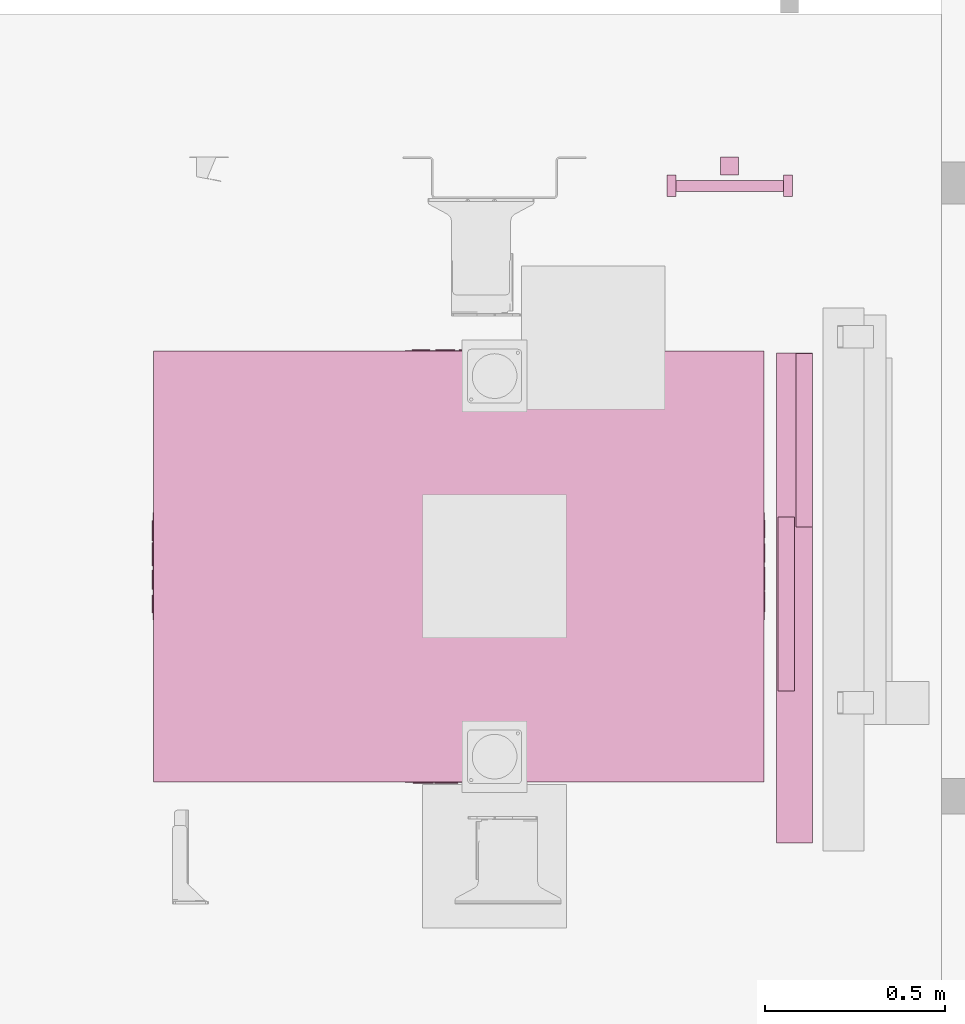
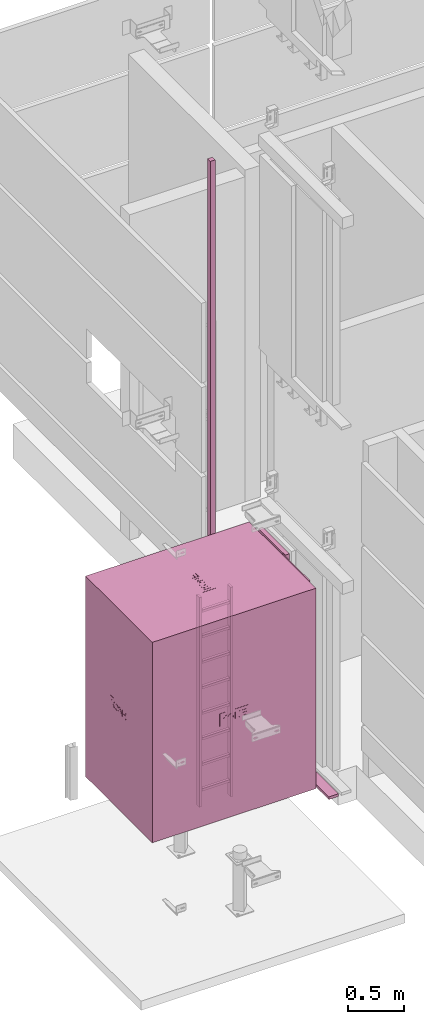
# One storey, part 9 of 15: 4 transport elements.
"""IFC2X3 building model written with IfcOpenShell, lengths in millimetres."""

from ifc_helpers import new_model, entity, si_unit, converted_unit, derived_unit, direction, frame, frame_2d, origin, origin_2d_with_axis, place, context, subcontext, project, spatial, polyline, rectangle, outline, extrude, source, transform, mapped, material, material_list, type_object, type_shapes, element, save


model = new_model("IFC2X3")

# Units and contexts
model_context = context("Model", 3, precision=0.01, world=origin(), true_north=direction((6.12303176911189e-17, 1.0)))
body_context = subcontext(model_context, "Body", "Model", "MODEL_VIEW")
ifc_project = project(units=[si_unit("LENGTHUNIT", "METRE", prefix="MILLI"), si_unit("AREAUNIT", "SQUARE_METRE"), si_unit("VOLUMEUNIT", "CUBIC_METRE"), converted_unit("PLANEANGLEUNIT", "DEGREE", entity("IfcRatioMeasure", 0.0174532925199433), si_unit("PLANEANGLEUNIT", "RADIAN"), dimensions=[0, 0, 0, 0, 0, 0, 0]), si_unit("MASSUNIT", "GRAM", prefix="KILO"), derived_unit("MASSDENSITYUNIT", [(si_unit("MASSUNIT", "GRAM", prefix="KILO"), 1), (si_unit("LENGTHUNIT", "METRE"), -3)]), si_unit("TIMEUNIT", "SECOND"), si_unit("FREQUENCYUNIT", "HERTZ"), si_unit("THERMODYNAMICTEMPERATUREUNIT", "DEGREE_CELSIUS"), derived_unit("THERMALTRANSMITTANCEUNIT", [(si_unit("MASSUNIT", "GRAM", prefix="KILO"), 1), (si_unit("THERMODYNAMICTEMPERATUREUNIT", "KELVIN"), -1), (si_unit("TIMEUNIT", "SECOND"), -3)]), derived_unit("VOLUMETRICFLOWRATEUNIT", [(si_unit("LENGTHUNIT", "METRE"), 3), (si_unit("TIMEUNIT", "SECOND"), -1)]), si_unit("ELECTRICCURRENTUNIT", "AMPERE"), si_unit("ELECTRICVOLTAGEUNIT", "VOLT"), si_unit("POWERUNIT", "WATT"), si_unit("FORCEUNIT", "NEWTON", prefix="KILO"), si_unit("ILLUMINANCEUNIT", "LUX"), si_unit("LUMINOUSFLUXUNIT", "LUMEN"), si_unit("LUMINOUSINTENSITYUNIT", "CANDELA"), derived_unit("USERDEFINED", [(si_unit("MASSUNIT", "GRAM", prefix="KILO"), -1), (si_unit("LENGTHUNIT", "METRE"), -2), (si_unit("TIMEUNIT", "SECOND"), 3), (si_unit("LUMINOUSFLUXUNIT", "LUMEN"), 1)]), derived_unit("LINEARVELOCITYUNIT", [(si_unit("LENGTHUNIT", "METRE"), 1), (si_unit("TIMEUNIT", "SECOND"), -1)]), si_unit("PRESSUREUNIT", "PASCAL"), derived_unit("USERDEFINED", [(si_unit("LENGTHUNIT", "METRE"), -2), (si_unit("MASSUNIT", "GRAM", prefix="KILO"), 1), (si_unit("TIMEUNIT", "SECOND"), -2)])], contexts=[model_context])

# Site, building, storey, space
site_placement = place(None, frame((-151.875543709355, 2715.0, 0.0)))
site = spatial("IfcSite", under=ifc_project, at=site_placement, Name="Surface", CompositionType="ELEMENT")
building_placement = place(site_placement, origin())
building = spatial("IfcBuilding", under=site, at=building_placement, CompositionType="ELEMENT")
storey_placement = place(building_placement, frame((0.0, 0.0, -135.0)))
storey = spatial("IfcBuildingStorey", under=building, at=storey_placement, Name="uus 1 korrus", CompositionType="ELEMENT", Elevation=-134.99999999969)
space_placement = place(storey_placement, origin())
space = spatial("IfcSpace", under=storey, at=space_placement, Name="132a", CompositionType="ELEMENT", InteriorOrExteriorSpace="INTERNAL")

# Transport elements
ifc_material_1 = material(Name="Stainless Steel-KONE-KONE Blue")
ifc_material_2 = material(Name="Stainless Steel-KONE-Stainless Steel")
ifc_material_list_1 = material_list([ifc_material_1, ifc_material_2])
ifc_material_list_2 = material_list([ifc_material_1, ifc_material_2])
transport_element_type_1 = type_object("IfcTransportElementType", Name="KONE_Car", material=ifc_material_list_2)
shared_shape_1 = source(origin(), body_context, "Body", "SweptSolid", [
    extrude(outline(polyline([(-23.7161458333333, -34.1600560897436), (-15.1007612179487, -34.1600560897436), (-15.1007612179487, -10.4677483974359), (-3.49018429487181, 0.604366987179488), (22.8271233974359, -34.1600560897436), (33.3607772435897, -34.1600560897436), (2.61798878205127, 6.42648237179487), (32.2838541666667, 34.7630208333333), (20.2357772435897, 34.7630208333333), (-15.1007612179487, 1.02504006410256), (-15.1007612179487, 34.7630208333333), (-23.7161458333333, 34.7630208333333), (-23.7161458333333, -34.1600560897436)])), frame((-98.640877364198, 0.670359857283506, 2202.0)), (0.0, 0.0, 1.0), 2.00000000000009),
    extrude(outline(polyline([(-4.38755112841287, -30.9425072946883), (13.2135732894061, -30.9425072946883), (28.2677710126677, -22.5198576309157), (36.7125359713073, -6.67573487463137), (36.311926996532, 10.5339339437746), (26.8154367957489, 24.9713807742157), (9.53747559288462, 33.2618413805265), (-9.33334183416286, 33.4842088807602), (-24.2877935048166, 24.9696072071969), (-32.5517471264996, 9.27389299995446), (-33.1444543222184, -4.12109256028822), (-28.4253846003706, -15.9988418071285), (-18.7284471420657, -25.294323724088), (-4.38755112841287, -30.9425072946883)]), holes=[polyline([(-2.37822436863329, -22.5642893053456), (-14.541193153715, -17.9296108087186), (-21.7060630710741, -10.7561535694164), (-24.6483112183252, -1.99674937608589), (-24.1434146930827, 7.39576998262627), (-18.0590462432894, 18.9735068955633), (-6.96883515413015, 25.207015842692), (7.54454930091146, 24.8798590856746), (18.2774188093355, 20.6619034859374), (25.3833115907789, 13.7674241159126), (28.7597367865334, 5.0097944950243), (28.3042035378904, -4.79761185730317), (24.4848289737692, -13.6905031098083), (17.6793868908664, -20.0981986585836), (8.51574615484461, -23.2972701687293), (-2.37822436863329, -22.5642893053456)])]), frame((-30.9094917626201, 2.70889844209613, 2202.0), z_axis=(0.0, 0.0, 1.0), x_axis=(0.223707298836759, -0.974656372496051, 0.0)), (0.0, 0.0, 1.0), 2.00000000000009),
    extrude(outline(polyline([(-26.9230769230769, -34.4632211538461), (-18.3076923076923, -34.4632211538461), (-18.3076923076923, 20.1569711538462), (17.7019230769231, -34.4632211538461), (26.9230769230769, -34.4632211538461), (26.9230769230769, 34.4598557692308), (18.3076923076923, 34.4598557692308), (18.3076923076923, -20.1435096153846), (-17.7019230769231, 34.4598557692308), (-26.9230769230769, 34.4598557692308), (-26.9230769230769, -34.4632211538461)])), frame((42.4122075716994, 0.973524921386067, 2202.0)), (0.0, 0.0, 1.0), 2.00000000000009),
    extrude(outline(polyline([(-27.4615384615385, -34.8205128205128), (23.1538461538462, -34.8205128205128), (23.1538461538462, -26.2051282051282), (-18.8461538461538, -26.2051282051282), (-18.8461538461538, -3.58974358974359), (19.9230769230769, -3.58974358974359), (19.9230769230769, 5.02564102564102), (-18.8461538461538, 5.02564102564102), (-18.8461538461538, 25.4871794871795), (22.0769230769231, 25.4871794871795), (22.0769230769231, 34.1025641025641), (-27.4615384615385, 34.1025641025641), (-27.4615384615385, -34.8205128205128)])), frame((111.873746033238, 1.33081658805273, 2202.0)), (0.0, 0.0, 1.0), 2.00000000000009),
    extrude(rectangle(XDim=300.0, YDim=139.998301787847, at=origin_2d_with_axis()), frame((0.0, 0.0, 2200.0), z_axis=(0.0, 0.0, 1.0), x_axis=(-1.0, 0.0, 0.0)), (0.0, 0.0, 1.0), 1.99999999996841),
    extrude(outline(polyline([(-34.1600560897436, -23.7161458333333), (34.7630208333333, -23.7161458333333), (34.7630208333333, -15.1007612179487), (1.02504006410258, -15.1007612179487), (34.7630208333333, 20.2357772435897), (34.7630208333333, 32.2838541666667), (6.42648237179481, 2.61798878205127), (-34.1600560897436, 33.3607772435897), (-34.1600560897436, 22.8271233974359), (0.604366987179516, -3.49018429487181), (-10.4677483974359, -15.1007612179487), (-34.1600560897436, -15.1007612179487), (-34.1600560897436, -23.7161458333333)])), frame((-604.0, 103.899238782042, 1099.16005608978), z_axis=(1.0, 0.0, 0.0), x_axis=(0.0, 0.0, 1.0)), (0.0, 0.0, 1.0), 2.00000000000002),
    extrude(outline(polyline([(-7.2566605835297, -30.3978657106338), (8.15642723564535, -30.3978657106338), (20.585173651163, -25.3024910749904), (29.328612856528, -15.9803230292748), (33.6857790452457, -3.2999427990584), (31.7484498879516, 14.3322757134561), (20.9544931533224, 27.7346846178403), (3.31491268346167, 34.443067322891), (-15.7991994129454, 33.0608954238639), (-29.9257346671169, 23.1077954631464), (-36.6050231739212, 7.24209997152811), (-34.5538454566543, -10.5944622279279), (-23.6333852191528, -23.9478679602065), (-7.2566605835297, -30.3978657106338)]), holes=[polyline([(-6.05598182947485, -21.8661424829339), (-16.4607307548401, -18.5559982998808), (-23.8146028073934, -12.221415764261), (-27.7985090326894, -3.76558373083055), (-28.093360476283, 5.90830894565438), (-24.9232444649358, 15.2004074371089), (-18.5724299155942, 22.1115200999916), (-9.43434180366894, 25.9224128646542), (2.09759489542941, 25.9138516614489), (15.7212620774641, 20.8997662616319), (23.7557041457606, 11.035834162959), (25.1741163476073, -1.96615177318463), (22.2019666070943, -10.8903137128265), (16.2544758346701, -17.9621833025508), (6.959280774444, -22.0110348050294), (-6.05598182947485, -21.8661424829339)])]), frame((-604.0, 36.1678531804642, 1101.19859467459), z_axis=(1.0, 0.0, 0.0), x_axis=(0.0, -0.149021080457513, 0.988834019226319)), (0.0, 0.0, 1.0), 1.99999999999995),
    extrude(outline(polyline([(-34.4632211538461, -26.9230769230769), (34.4598557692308, -26.9230769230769), (34.4598557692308, -17.7019230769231), (-20.1435096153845, 18.3076923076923), (34.4598557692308, 18.3076923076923), (34.4598557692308, 26.9230769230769), (-34.4632211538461, 26.9230769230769), (-34.4632211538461, 17.7019230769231), (20.1569711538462, -18.3076923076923), (-34.4632211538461, -18.3076923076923), (-34.4632211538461, -26.9230769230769)])), frame((-604.0, -37.1538461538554, 1099.46322115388), z_axis=(1.0, 0.0, 0.0), x_axis=(0.0, 0.0, 1.0)), (0.0, 0.0, 1.0), 2.00000000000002),
    extrude(outline(polyline([(-34.8205128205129, -27.4615384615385), (34.102564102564, -27.4615384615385), (34.102564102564, 22.0769230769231), (25.4871794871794, 22.0769230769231), (25.4871794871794, -18.8461538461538), (5.0256410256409, -18.8461538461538), (5.0256410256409, 19.9230769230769), (-3.58974358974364, 19.9230769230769), (-3.58974358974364, -18.8461538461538), (-26.2051282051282, -18.8461538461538), (-26.2051282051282, 23.1538461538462), (-34.8205128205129, 23.1538461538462), (-34.8205128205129, -27.4615384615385)])), frame((-604.0, -106.615384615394, 1099.82051282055), z_axis=(1.0, 0.0, 0.0), x_axis=(0.0, 0.0, 1.0)), (0.0, 0.0, 1.0), 2.00000000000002),
    extrude(rectangle(XDim=2.0000000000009, YDim=299.856857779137, at=frame_2d((-3.38618022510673e-14, 0.0), x_axis=(1.0, 0.0))), frame((-601.0, 0.0, 1030.0)), (0.0, 0.0, 1.0), 140.0),
    extrude(outline(polyline([(-23.7161458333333, -34.1600560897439), (-15.1007612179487, -34.1600560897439), (-15.1007612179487, -10.4677483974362), (-3.49018429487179, 0.604366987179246), (22.8271233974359, -34.1600560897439), (33.3607772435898, -34.1600560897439), (2.61798878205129, 6.42648237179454), (32.2838541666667, 34.763020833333), (20.2357772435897, 34.763020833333), (-15.1007612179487, 1.02504006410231), (-15.1007612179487, 34.763020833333), (-23.7161458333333, 34.763020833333), (-23.7161458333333, -34.1600560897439)])), frame((602.0, -103.899238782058, 1099.16005608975), z_axis=(1.0, 0.0, 0.0), x_axis=(0.0, 1.0, 0.0)), (0.0, 0.0, 1.0), 2.00000000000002),
    extrude(outline(polyline([(-4.38755112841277, -30.9425072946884), (13.2135732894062, -30.9425072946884), (28.2677710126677, -22.5198576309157), (36.7125359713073, -6.6757348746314), (36.3119269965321, 10.5339339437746), (26.8154367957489, 24.9713807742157), (9.53747559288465, 33.2618413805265), (-9.33334183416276, 33.4842088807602), (-24.2877935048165, 24.9696072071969), (-32.5517471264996, 9.27389299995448), (-33.1444543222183, -4.12109256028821), (-28.4253846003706, -15.9988418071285), (-18.7284471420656, -25.294323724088), (-4.38755112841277, -30.9425072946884)]), holes=[polyline([(-2.37822436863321, -22.5642893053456), (-14.541193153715, -17.9296108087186), (-21.7060630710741, -10.7561535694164), (-24.6483112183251, -1.99674937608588), (-24.1434146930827, 7.39576998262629), (-18.0590462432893, 18.9735068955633), (-6.96883515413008, 25.207015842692), (7.54454930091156, 24.8798590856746), (18.2774188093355, 20.6619034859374), (25.383311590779, 13.7674241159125), (28.7597367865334, 5.00979449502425), (28.3042035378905, -4.79761185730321), (24.4848289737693, -13.6905031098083), (17.6793868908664, -20.0981986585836), (8.51574615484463, -23.2972701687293), (-2.37822436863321, -22.5642893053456)])]), frame((602.0, -36.1678531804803, 1101.19859467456), z_axis=(1.0, 0.0, 0.0), x_axis=(0.0, 0.22370729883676, -0.974656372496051)), (0.0, 0.0, 1.0), 1.99999999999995),
    extrude(outline(polyline([(-26.9230769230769, -34.4632211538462), (-18.3076923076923, -34.4632211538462), (-18.3076923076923, 20.1569711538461), (17.7019230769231, -34.4632211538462), (26.9230769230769, -34.4632211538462), (26.9230769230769, 34.4598557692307), (18.3076923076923, 34.4598557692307), (18.3076923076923, -20.1435096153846), (-17.7019230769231, 34.4598557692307), (-26.9230769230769, 34.4598557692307), (-26.9230769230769, -34.4632211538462)])), frame((602.0, 37.1538461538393, 1099.46322115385), z_axis=(1.0, 0.0, 0.0), x_axis=(0.0, 1.0, 0.0)), (0.0, 0.0, 1.0), 2.00000000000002),
    extrude(outline(polyline([(-27.4615384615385, -34.8205128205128), (23.1538461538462, -34.8205128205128), (23.1538461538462, -26.2051282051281), (-18.8461538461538, -26.2051282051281), (-18.8461538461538, -3.5897435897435), (19.9230769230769, -3.5897435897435), (19.9230769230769, 5.02564102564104), (-18.8461538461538, 5.02564102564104), (-18.8461538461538, 25.4871794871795), (22.0769230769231, 25.4871794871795), (22.0769230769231, 34.1025641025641), (-27.4615384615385, 34.1025641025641), (-27.4615384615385, -34.8205128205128)])), frame((602.0, 106.615384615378, 1099.82051282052), z_axis=(1.0, 0.0, 0.0), x_axis=(0.0, 1.0, 0.0)), (0.0, 0.0, 1.0), 2.00000000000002),
    extrude(rectangle(XDim=2.0000000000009, YDim=299.856857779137, at=frame_2d((3.38618022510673e-14, 0.0), x_axis=(1.0, 0.0))), frame((601.0, 0.0, 1030.0), z_axis=(0.0, 0.0, 1.0), x_axis=(-1.0, 0.0, 0.0)), (0.0, 0.0, 1.0), 140.0),
    extrude(outline(polyline([(-23.7161458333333, -34.1600560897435), (-15.1007612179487, -34.1600560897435), (-15.1007612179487, -10.4677483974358), (-3.49018429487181, 0.604366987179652), (22.8271233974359, -34.1600560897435), (33.3607772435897, -34.1600560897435), (2.61798878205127, 6.42648237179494), (32.2838541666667, 34.7630208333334), (20.2357772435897, 34.7630208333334), (-15.1007612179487, 1.02504006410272), (-15.1007612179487, 34.7630208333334), (-23.7161458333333, 34.7630208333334), (-23.7161458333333, -34.1600560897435)])), frame((103.899238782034, 852.0, 1099.16005608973), z_axis=(0.0, 1.0, 0.0), x_axis=(-1.0, 0.0, 0.0)), (0.0, 0.0, 1.0), 1.99999999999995),
    extrude(outline(polyline([(-4.38755112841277, -30.9425072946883), (13.2135732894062, -30.9425072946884), (28.2677710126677, -22.5198576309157), (36.7125359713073, -6.6757348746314), (36.3119269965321, 10.5339339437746), (26.8154367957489, 24.9713807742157), (9.53747559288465, 33.2618413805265), (-9.33334183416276, 33.4842088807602), (-24.2877935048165, 24.9696072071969), (-32.5517471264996, 9.27389299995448), (-33.1444543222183, -4.1210925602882), (-28.4253846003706, -15.9988418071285), (-18.7284471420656, -25.294323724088), (-4.38755112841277, -30.9425072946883)]), holes=[polyline([(-2.37822436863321, -22.5642893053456), (-14.541193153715, -17.9296108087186), (-21.7060630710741, -10.7561535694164), (-24.6483112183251, -1.99674937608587), (-24.1434146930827, 7.39576998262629), (-18.0590462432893, 18.9735068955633), (-6.96883515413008, 25.207015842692), (7.54454930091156, 24.8798590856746), (18.2774188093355, 20.6619034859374), (25.383311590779, 13.7674241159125), (28.7597367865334, 5.00979449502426), (28.3042035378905, -4.79761185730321), (24.4848289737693, -13.6905031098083), (17.6793868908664, -20.0981986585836), (8.51574615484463, -23.2972701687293), (-2.37822436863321, -22.5642893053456)])]), frame((36.1678531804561, 852.0, 1101.19859467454), z_axis=(0.0, 1.0, 0.0), x_axis=(-0.22370729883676, 0.0, -0.974656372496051)), (0.0, 0.0, 1.0), 2.00000000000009),
    extrude(outline(polyline([(-26.9230769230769, -34.4632211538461), (-18.3076923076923, -34.4632211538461), (-18.3076923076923, 20.1569711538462), (17.7019230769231, -34.4632211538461), (26.9230769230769, -34.4632211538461), (26.9230769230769, 34.4598557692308), (18.3076923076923, 34.4598557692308), (18.3076923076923, -20.1435096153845), (-17.7019230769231, 34.4598557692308), (-26.9230769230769, 34.4598557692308), (-26.9230769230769, -34.4632211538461)])), frame((-37.1538461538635, 852.0, 1099.46322115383), z_axis=(0.0, 1.0, 0.0), x_axis=(-1.0, 0.0, 0.0)), (0.0, 0.0, 1.0), 2.00000000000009),
    extrude(outline(polyline([(-27.4615384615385, -34.8205128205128), (23.1538461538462, -34.8205128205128), (23.1538461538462, -26.2051282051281), (-18.8461538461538, -26.2051282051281), (-18.8461538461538, -3.5897435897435), (19.9230769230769, -3.5897435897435), (19.9230769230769, 5.02564102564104), (-18.8461538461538, 5.02564102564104), (-18.8461538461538, 25.4871794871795), (22.0769230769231, 25.4871794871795), (22.0769230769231, 34.1025641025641), (-27.4615384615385, 34.1025641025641), (-27.4615384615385, -34.8205128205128)])), frame((-106.615384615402, 852.0, 1099.82051282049), z_axis=(0.0, 1.0, 0.0), x_axis=(-1.0, 0.0, 0.0)), (0.0, 0.0, 1.0), 1.99999999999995),
    extrude(rectangle(XDim=2.0000000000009, YDim=299.856857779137, at=origin_2d_with_axis()), frame((0.0, 851.0, 1030.0), z_axis=(0.0, 0.0, 1.0), x_axis=(0.0, -1.0, 0.0)), (0.0, 0.0, 1.0), 140.0),
    extrude(outline(polyline([(-34.1600560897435, -23.7161458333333), (34.7630208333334, -23.7161458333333), (34.7630208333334, -15.1007612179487), (1.02504006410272, -15.1007612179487), (34.7630208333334, 20.2357772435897), (34.7630208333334, 32.2838541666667), (6.42648237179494, 2.61798878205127), (-34.1600560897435, 33.3607772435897), (-34.1600560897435, 22.8271233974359), (0.604366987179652, -3.49018429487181), (-10.4677483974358, -15.1007612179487), (-34.1600560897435, -15.1007612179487), (-34.1600560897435, -23.7161458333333)])), frame((-103.89923878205, -854.0, 1099.16005608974), z_axis=(0.0, 1.0, 0.0), x_axis=(0.0, 0.0, 1.0)), (0.0, 0.0, 1.0), 1.99999999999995),
    extrude(outline(polyline([(-7.25666058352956, -30.3978657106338), (8.15642723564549, -30.3978657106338), (20.5851736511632, -25.3024910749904), (29.3286128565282, -15.9803230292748), (33.6857790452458, -3.29994279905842), (31.7484498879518, 14.3322757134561), (20.9544931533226, 27.7346846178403), (3.3149126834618, 34.443067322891), (-15.7991994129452, 33.0608954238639), (-29.9257346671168, 23.1077954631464), (-36.6050231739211, 7.24209997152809), (-34.5538454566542, -10.5944622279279), (-23.6333852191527, -23.9478679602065), (-7.25666058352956, -30.3978657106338)]), holes=[polyline([(-6.05598182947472, -21.8661424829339), (-16.46073075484, -18.5559982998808), (-23.8146028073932, -12.221415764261), (-27.7985090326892, -3.76558373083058), (-28.0933604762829, 5.90830894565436), (-24.9232444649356, 15.2004074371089), (-18.5724299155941, 22.1115200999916), (-9.4343418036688, 25.9224128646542), (2.09759489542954, 25.9138516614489), (15.7212620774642, 20.8997662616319), (23.7557041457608, 11.035834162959), (25.1741163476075, -1.96615177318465), (22.2019666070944, -10.8903137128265), (16.2544758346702, -17.9621833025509), (6.95928077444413, -22.0110348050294), (-6.05598182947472, -21.8661424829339)])]), frame((-36.1678531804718, -854.0, 1101.19859467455), z_axis=(0.0, 1.0, 0.0), x_axis=(0.149021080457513, 0.0, 0.988834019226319)), (0.0, 0.0, 1.0), 2.00000000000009),
    extrude(outline(polyline([(-34.4632211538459, -26.9230769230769), (34.4598557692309, -26.9230769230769), (34.4598557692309, -17.7019230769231), (-20.1435096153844, 18.3076923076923), (34.4598557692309, 18.3076923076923), (34.4598557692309, 26.9230769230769), (-34.4632211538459, 26.9230769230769), (-34.4632211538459, 17.7019230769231), (20.1569711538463, -18.3076923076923), (-34.4632211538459, -18.3076923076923), (-34.4632211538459, -26.9230769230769)])), frame((37.1538461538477, -854.0, 1099.46322115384), z_axis=(0.0, 1.0, 0.0), x_axis=(0.0, 0.0, 1.0)), (0.0, 0.0, 1.0), 2.00000000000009),
    extrude(outline(polyline([(-34.8205128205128, -27.4615384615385), (34.1025641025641, -27.4615384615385), (34.1025641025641, 22.0769230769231), (25.4871794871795, 22.0769230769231), (25.4871794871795, -18.8461538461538), (5.02564102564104, -18.8461538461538), (5.02564102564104, 19.9230769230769), (-3.5897435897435, 19.9230769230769), (-3.5897435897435, -18.8461538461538), (-26.2051282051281, -18.8461538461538), (-26.2051282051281, 23.1538461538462), (-34.8205128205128, 23.1538461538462), (-34.8205128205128, -27.4615384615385)])), frame((106.615384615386, -854.0, 1099.82051282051), z_axis=(0.0, 1.0, 0.0), x_axis=(0.0, 0.0, 1.0)), (0.0, 0.0, 1.0), 1.99999999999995),
    extrude(rectangle(XDim=2.0000000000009, YDim=299.856857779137, at=origin_2d_with_axis()), frame((0.0, -851.0, 1030.0), z_axis=(0.0, 0.0, 1.0), x_axis=(0.0, 1.0, 0.0)), (0.0, 0.0, 1.0), 140.0),
    extrude(rectangle(XDim=1200.0, YDim=1700.00000000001, at=origin_2d_with_axis()), frame((0.0, 0.0, 0.0), z_axis=(0.0, 0.0, 1.0), x_axis=(-1.0, 0.0, 0.0)), (0.0, 0.0, 1.0), 2200.0),
])
type_shapes(transport_element_type_1, [shared_shape_1])
transport_element_1_placement = place(space_placement, frame((30656.6177671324, 20600.0, 0.0), z_axis=(0.0, 0.0, 1.0), x_axis=(0.0, 1.0, 0.0)))
element("IfcTransportElement", 1, at=transport_element_1_placement, inside=space, type_object=transport_element_type_1, material=ifc_material_list_1, Name="KONE_Car:KONE_Car", ObjectType="KONE_Car", CapacityByNumber=0.0, CapacityByWeight=0.0, OperationType="ELEVATOR", context=body_context, shape_type="MappedRepresentation", body=[
    mapped(shared_shape_1, transform((0.0, 0.0, 0.0), scale=1.0)),
])
ifc_material_3 = material(Name="Glass")
transport_element_type_2 = type_object("IfcTransportElementType", Name="KONE_Car_Door_2L_Glass", material=ifc_material_3)
shared_shape_2 = source(origin(), body_context, "Body", "SweptSolid", [
    extrude(rectangle(XDim=373.5, YDim=45.0, at=frame_2d((0.0, 1.77635683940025e-14), x_axis=(1.0, 0.0))), frame((221.250000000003, -62.943822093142, 100.0), z_axis=(0.0, 0.0, 1.0), x_axis=(-1.0, 0.0, 0.0)), (0.0, 0.0, 1.0), 1899.99999999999),
    extrude(outline(polyline([(-241.75, -1050.0), (241.75, -1050.0), (241.75, 1050.0), (-241.75, 1050.0), (-241.75, -1050.0)]), holes=[polyline([(186.75, -950.0), (-186.75, -950.0), (-186.75, 950.0), (186.75, 950.0), (186.75, -950.0)])]), frame((221.250000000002, -85.4438220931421, 1050.0), z_axis=(0.0, 1.0, 0.0), x_axis=(1.0, 0.0, 0.0)), (0.0, 0.0, 1.0), 45.0000000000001),
    extrude(rectangle(XDim=373.499999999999, YDim=45.0, at=frame_2d((2.8421709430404e-14, 1.4210854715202e-14), x_axis=(1.0, 0.0))), frame((-234.749999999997, -12.9438220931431, 100.0), z_axis=(0.0, 0.0, 1.0), x_axis=(-1.0, 0.0, 0.0)), (0.0, 0.0, 1.0), 1899.99999999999),
    extrude(outline(polyline([(-241.75, -1050.0), (241.75, -1050.0), (241.75, 1050.0), (-241.75, 1050.0), (-241.75, -1050.0)]), holes=[polyline([(186.75, -950.0), (-186.75, -950.0), (-186.75, 950.0), (186.75, 950.0), (186.75, -950.0)])]), frame((-234.749999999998, -35.4438220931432, 1050.0), z_axis=(0.0, 1.0, 0.0), x_axis=(1.0, 0.0, 0.0)), (0.0, 0.0, 1.0), 45.0000000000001),
    extrude(rectangle(XDim=100.0, YDim=1365.0, at=frame_2d((-7.105427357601e-15, 0.0), x_axis=(1.0, 0.0))), frame((-217.5, -35.4438220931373, -30.0), z_axis=(0.0, 0.0, 1.0), x_axis=(0.0, -1.0, 0.0)), (0.0, 0.0, 1.0), 30.0000000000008),
])
type_shapes(transport_element_type_2, [shared_shape_2])
transport_element_2_placement = place(space_placement, frame((31556.1739450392, 20730.0, 0.0), z_axis=(0.0, 0.0, 1.0), x_axis=(0.0, 1.0, 0.0)))
element("IfcTransportElement", 2, at=transport_element_2_placement, inside=space, type_object=transport_element_type_2, material=ifc_material_3, Name="KONE_Car_Door_2L_Glass:KONE_Car_Door_2L_Glass", ObjectType="KONE_Car_Door_2L_Glass", CapacityByNumber=0.0, CapacityByWeight=0.0, OperationType="ELEVATOR", context=body_context, shape_type="MappedRepresentation", body=[
    mapped(shared_shape_2, transform((0.0, 0.0, 0.0), scale=1.0)),
])
ifc_material_4 = material(Name="Site specified")
transport_element_type_3 = type_object("IfcTransportElementType", Name="KONE_Pit_Ladder", material=ifc_material_4)
shared_shape_3 = source(origin(), body_context, "Body", "SweptSolid", [
    extrude(rectangle(XDim=27.0000000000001, YDim=300.0, at=frame_2d((1.35003119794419e-13, 1.4210854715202e-14), x_axis=(1.0, 0.0))), frame((204.368600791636, 2130.5915440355, -45.0999999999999), z_axis=(0.0, 0.0, 1.0), x_axis=(0.0, -1.0, 0.0)), (0.0, 0.0, 1.0), 29.9999999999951),
    extrude(rectangle(XDim=27.0000000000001, YDim=300.0, at=frame_2d((1.35003119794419e-13, 1.4210854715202e-14), x_axis=(1.0, 0.0))), frame((204.368600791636, 1850.5915440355, -45.1000000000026), z_axis=(0.0, 0.0, 1.0), x_axis=(0.0, -1.0, 0.0)), (0.0, 0.0, 1.0), 29.9999999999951),
    extrude(rectangle(XDim=27.0000000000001, YDim=300.0, at=frame_2d((1.35003119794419e-13, 1.4210854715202e-14), x_axis=(1.0, 0.0))), frame((204.368600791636, 1570.5915440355, -45.1000000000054), z_axis=(0.0, 0.0, 1.0), x_axis=(0.0, -1.0, 0.0)), (0.0, 0.0, 1.0), 29.9999999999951),
    extrude(rectangle(XDim=27.0000000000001, YDim=300.0, at=frame_2d((1.35003119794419e-13, 1.4210854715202e-14), x_axis=(1.0, 0.0))), frame((204.368600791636, 1290.5915440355, -45.1000000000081), z_axis=(0.0, 0.0, 1.0), x_axis=(0.0, -1.0, 0.0)), (0.0, 0.0, 1.0), 29.9999999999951),
    extrude(rectangle(XDim=27.0, YDim=300.0, at=frame_2d((6.75015598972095e-14, 1.4210854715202e-14), x_axis=(1.0, 0.0))), frame((204.368600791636, 1010.5915440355, -45.1000000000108), z_axis=(0.0, 0.0, 1.0), x_axis=(0.0, -1.0, 0.0)), (0.0, 0.0, 1.0), 29.9999999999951),
    extrude(rectangle(XDim=27.0, YDim=300.0, at=frame_2d((6.75015598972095e-14, 1.4210854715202e-14), x_axis=(1.0, 0.0))), frame((204.368600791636, 730.591544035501, -45.1000000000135), z_axis=(0.0, 0.0, 1.0), x_axis=(0.0, -1.0, 0.0)), (0.0, 0.0, 1.0), 29.9999999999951),
    extrude(rectangle(XDim=27.0000000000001, YDim=300.0, at=frame_2d((1.35003119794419e-13, 1.4210854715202e-14), x_axis=(1.0, 0.0))), frame((204.368600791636, 2410.5915440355, -45.0999999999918), z_axis=(0.0, 0.0, 1.0), x_axis=(0.0, -1.0, 0.0)), (0.0, 0.0, 1.0), 29.9999999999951),
    extrude(rectangle(XDim=27.0, YDim=300.0, at=frame_2d((0.0, 1.4210854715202e-14), x_axis=(1.0, 0.0))), frame((204.368600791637, 450.5915440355, -45.1000000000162), z_axis=(0.0, 0.0, 1.0), x_axis=(0.0, -1.0, 0.0)), (0.0, 0.0, 1.0), 29.9999999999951),
    extrude(rectangle(XDim=25.0000000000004, YDim=2300.0, at=frame_2d((0.0, 1.13686837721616e-13), x_axis=(1.0, 0.0))), frame((41.8686007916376, 1432.5915440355, -60.2), z_axis=(0.0, 0.0, 1.0), x_axis=(-1.0, 0.0, 0.0)), (0.0, 0.0, 1.0), 60.2),
    extrude(rectangle(XDim=2300.0, YDim=24.9999999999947, at=frame_2d((-1.13686837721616e-13, 0.0), x_axis=(1.0, 0.0))), frame((366.86860079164, 1432.5915440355, -60.2), z_axis=(0.0, 0.0, 1.0), x_axis=(0.0, -1.0, 0.0)), (0.0, 0.0, 1.0), 60.2),
])
type_shapes(transport_element_type_3, [shared_shape_3])
transport_element_3_placement = place(space_placement, frame((31615.986367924, 21690.0, -1382.59154403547), z_axis=(0.0, 1.0, 0.0), x_axis=(-1.0, 0.0, 0.0)))
element("IfcTransportElement", 3, at=transport_element_3_placement, inside=space, type_object=transport_element_type_3, material=ifc_material_4, Name="KONE_Pit_Ladder:KONE_Pit_Ladder", ObjectType="KONE_Pit_Ladder", CapacityByNumber=0.0, CapacityByWeight=0.0, OperationType="ELEVATOR", context=body_context, shape_type="MappedRepresentation", body=[
    mapped(shared_shape_3, transform((0.0, 0.0, 0.0), scale=1.0)),
])
transport_element_type_4 = type_object("IfcTransportElementType", Name="KONE_Wire_Channel", material=ifc_material_4)
shared_shape_4 = source(origin(), body_context, "Body", "SweptSolid", [
    extrude(rectangle(XDim=50.0000000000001, YDim=7000.00000000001, at=origin_2d_with_axis()), frame((129.368600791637, 20.091544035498, -50.0), z_axis=(0.0, 0.0, 1.0), x_axis=(-1.0, 0.0, 0.0)), (0.0, 0.0, 1.0), 49.9999999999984),
])
type_shapes(transport_element_type_4, [shared_shape_4])
transport_element_4_placement = place(space_placement, frame((31282.2491663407, 21740.0, 2420.09154403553), z_axis=(0.0, 1.0, 0.0), x_axis=(1.0, 0.0, 0.0)))
element("IfcTransportElement", 4, at=transport_element_4_placement, inside=space, type_object=transport_element_type_4, material=ifc_material_4, Name="KONE_Wire_Channel:KONE_Wire_Channel", ObjectType="KONE_Wire_Channel", CapacityByNumber=0.0, CapacityByWeight=0.0, OperationType="ELEVATOR", context=body_context, shape_type="MappedRepresentation", body=[
    mapped(shared_shape_4, transform((0.0, 0.0, 0.0), scale=1.0)),
])

save(model, "model.ifc")
